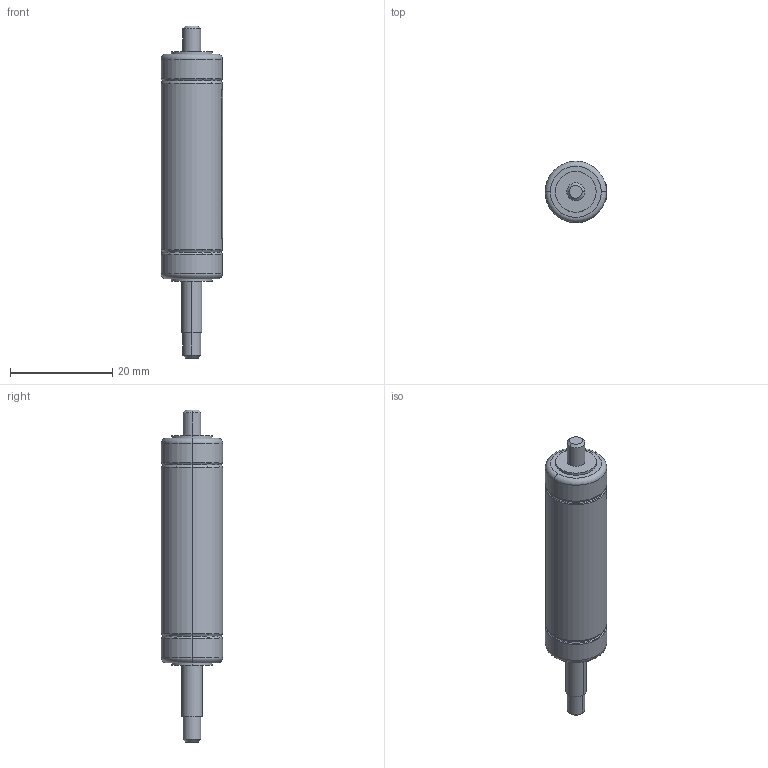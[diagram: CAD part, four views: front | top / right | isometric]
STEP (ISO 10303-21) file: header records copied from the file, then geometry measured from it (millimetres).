
FILE_DESCRIPTION (( 'STEP AP214' ), '1' );
FILE_NAME ('D2010055M3.5.STEP', '2023-02-22T13:09:24', ( '' ), ( '' ), 'SwSTEP 2.0', 'SolidWorks 2021', '' );
FILE_SCHEMA (( 'AUTOMOTIVE_DESIGN' ));
Length unit declared in the file: millimetre
Products named in the file (3): 2030092010_Veer; 2030092010_Cylinder; D2010055M3.5
Assembly tree (2 placements, depth 2):
  D2010055M3.5
    2030092010_Cylinder
    2030092010_Veer
Bounding box: 12.1 x 12 x 65 mm (x, y, z)
Volume: 5355.5 mm3; surface area: 2288.9 mm2
Topology: 2 solids, 2 shells, 260 faces, 689 edges, 450 vertices
Faces by surface type: bspline 171, plane 35, cylinder 30, torus 20, cone 4
Entity records: 14902 total; most frequent: CARTESIAN_POINT 9278, ORIENTED_EDGE 1378, EDGE_CURVE 689, B_SPLINE_CURVE_WITH_KNOTS 538, VERTEX_POINT 450, DIRECTION 425, EDGE_LOOP 277, FACE_OUTER_BOUND 260
